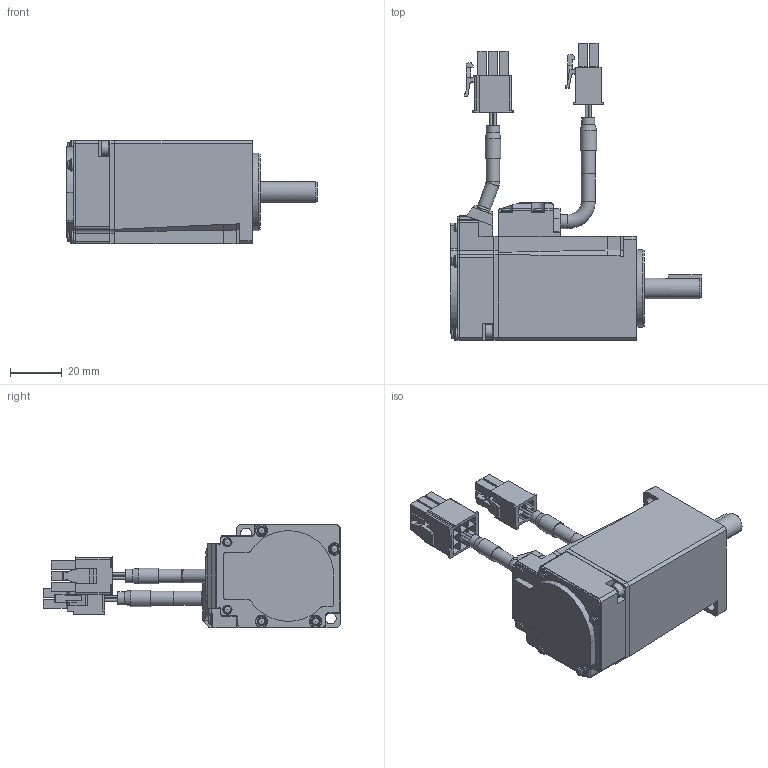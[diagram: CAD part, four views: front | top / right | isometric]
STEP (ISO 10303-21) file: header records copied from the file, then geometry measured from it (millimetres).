
FILE_DESCRIPTION(/* description */ ('STEP AP203'),/* implementation_level */ '2;1');
FILE_NAME(/* name */ 'MHMF012L1U2 2',/* time_stamp */ '2023-07-06T14:13:55+02:00',/* author */ ('License CC BY-ND 4.0'),/* organization */ ('CADENAS'),/* preprocessor_version */ 'ST-DEVELOPER v19.3',/* originating_system */ 'PARTsolutions',/* authorisation */ ' ');
FILE_SCHEMA (('CONFIG_CONTROL_DESIGN'));
Length unit declared in the file: millimetre
Products named in the file (8): MHMF012L1U2 2; MHMF Connector 9 Pin_A6; Cable Brake Top 02; Cable Brake Bottom 02; Motor Connector_2; Cable Motor Top 02; Cable Motor Bottom 02; MHMF012L1U22
Assembly tree (7 placements, depth 2):
  MHMF012L1U2 2
    MHMF Connector 9 Pin_A6
    Cable Brake Top 02
    Cable Brake Bottom 02
    Motor Connector_2
    Cable Motor Top 02
    Cable Motor Bottom 02
    MHMF012L1U22
Bounding box: 96.5 x 114.65 x 40 mm (x, y, z)
Volume: 125650.5 mm3; surface area: 29406.7 mm2
Topology: 7 solids, 7 shells, 710 faces, 1810 edges, 1180 vertices
Faces by surface type: plane 484, cylinder 174, cone 25, torus 15, sphere 12
Full cylindrical faces by diameter (mm): 1 x8, 1.82 x4, 2.459 x1, 2.6 x13, 4.3 x6, 4.4 x4, 4.5 x2, 4.8 x4, 5.1 x4, 5.4 x3, 5.5 x1, 6 x2, 6.4 x1, 8 x1, 8.9 x1, 10.5 x1, 30 x1
Entity records: 21598 total; most frequent: CARTESIAN_POINT 3581, DIRECTION 3490, ORIENTED_EDGE 3330, EDGE_CURVE 1665, LINE 1242, VECTOR 1242, VERTEX_POINT 1144, AXIS2_PLACEMENT_3D 1124
